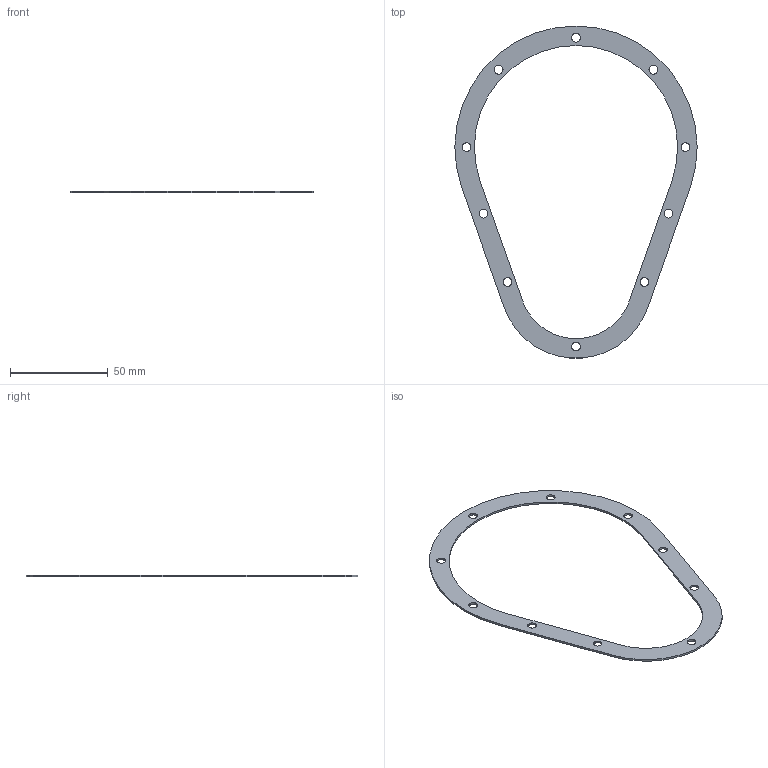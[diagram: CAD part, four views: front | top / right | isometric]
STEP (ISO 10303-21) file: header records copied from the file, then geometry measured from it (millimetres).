
FILE_DESCRIPTION(/* description */ (''),/* implementation_level */ '2;1');
FILE_NAME(/* name */ '',/* time_stamp */ '2025-01-06T15:40:20+09:00',/* author */ ('jhkim'),/* organization */ (''),/* preprocessor_version */ 'ST-DEVELOPER v20',/* originating_system */ 'Autodesk Inventor 2025',/* authorisation */ '');
FILE_SCHEMA (('AUTOMOTIVE_DESIGN { 1 0 10303 214 3 1 1 }'));
Length unit declared in the file: millimetre
Products named in the file (1): 가스켓
Bounding box: 124 x 169.87 x 1 mm (x, y, z)
Volume: 4157.2 mm3; surface area: 9319 mm2
Topology: 1 solids, 1 shells, 20 faces, 54 edges, 36 vertices
Faces by surface type: cylinder 14, plane 6
Full cylindrical faces by diameter (mm): 4.5 x10
Entity records: 733 total; most frequent: DIRECTION 124, CARTESIAN_POINT 111, ORIENTED_EDGE 108, EDGE_CURVE 54, AXIS2_PLACEMENT_3D 49, EDGE_LOOP 42, VERTEX_POINT 36, CIRCLE 28
